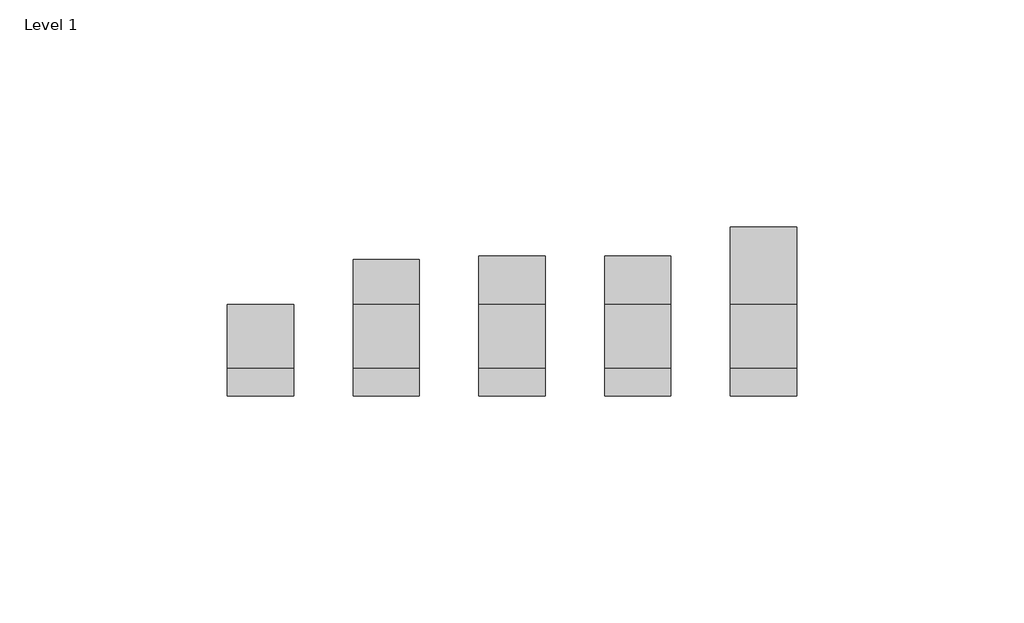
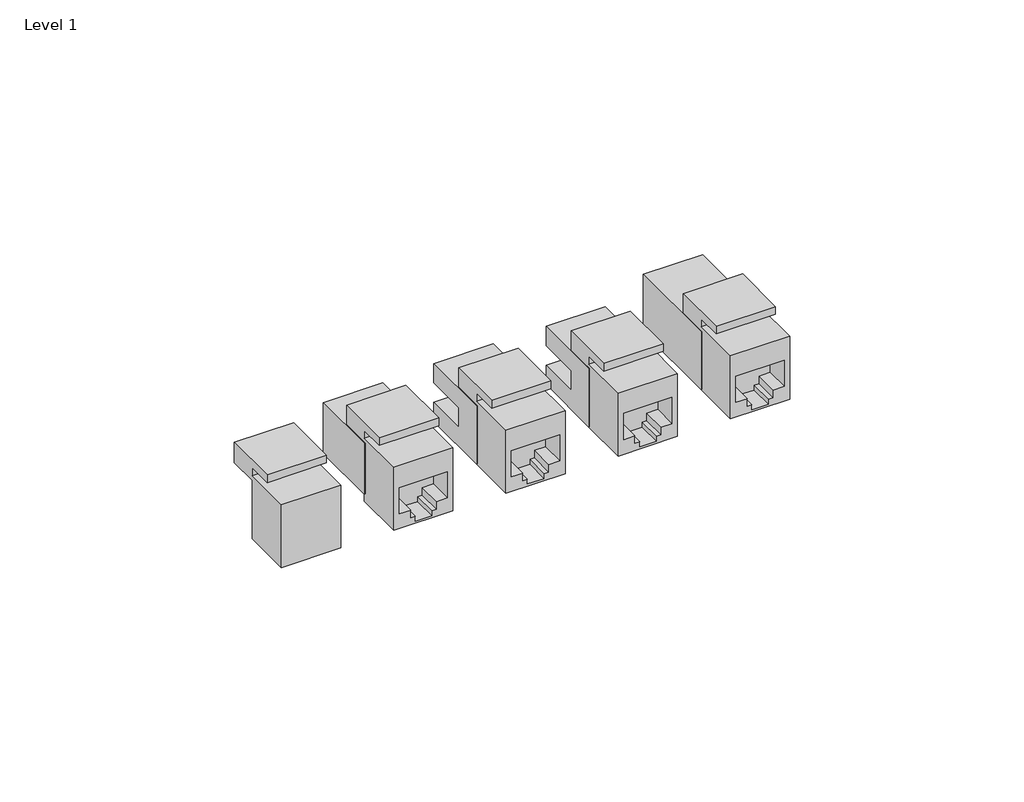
# One storey: 5 electric appliances.
"""IFC4 building model written with IfcOpenShell, lengths in millimetres."""

from ifc_helpers import new_model, si_unit, origin, place, context, project, spatial, transform, mapped, element, save
from components import blank_9f760caa, cat_5e_e14e3988, cat_5e_8b6398ec, cat_6a_component_rated_67d5ba4e

model = new_model("IFC4")

# Units and contexts
model_context = context("Model", 3, world=origin())
ifc_project = project(units=[si_unit("LENGTHUNIT", "METRE", prefix="MILLI")], contexts=[model_context])

# Site, building, storey
site = spatial("IfcSite", under=ifc_project)
building = spatial("IfcBuilding", under=site)
storey = spatial("IfcBuildingStorey", under=building, Name="Level 1", Elevation=0.0)

# Electric appliances
placement = place(None, origin())
blank_shape = blank_9f760caa(model_context)
element("IfcElectricAppliance", 1, ObjectType="Data_Device-Network-Leviton-QuickPort-Connector-Copper : Blank", at=placement, inside=storey, context=model_context, shape_type="MappedRepresentation", body=[
    mapped(blank_shape, transform((-2237.8002828, 1757.7406258, 233.1085), x_axis=(1.0, 0.0, 0.0), y_axis=(0.0, 0.0, 1.0), z_axis=(0.0, -1.0, 0.0))),
])
cat_5e_shape = cat_5e_e14e3988(model_context)
element("IfcElectricAppliance", 2, ObjectType="Data_Device-Network-Leviton-QuickPort-Connector-Copper : CAT 5e", at=placement, inside=storey, context=model_context, shape_type="MappedRepresentation", body=[
    mapped(cat_5e_shape, transform((-2210.1511721, 1757.7406258, 233.1085), x_axis=(1.0, 0.0, 0.0), y_axis=(0.0, 0.0, 1.0), z_axis=(0.0, -1.0, 0.0))),
])
cat_5e_2_shape = cat_5e_8b6398ec(model_context)
element("IfcElectricAppliance", 3, ObjectType="Data_Device-Network-Leviton-QuickPort-Connector-Copper : CAT 5e+", at=placement, inside=storey, context=model_context, shape_type="MappedRepresentation", body=[
    mapped(cat_5e_2_shape, transform((-2182.5020615, 1757.7406258, 233.1085), x_axis=(1.0, 0.0, 0.0), y_axis=(0.0, 0.0, 1.0), z_axis=(0.0, -1.0, 0.0))),
])
element("IfcElectricAppliance", 4, ObjectType="Data_Device-Network-Leviton-QuickPort-Connector-Copper : CAT 6", at=placement, inside=storey, context=model_context, shape_type="MappedRepresentation", body=[
    mapped(cat_5e_2_shape, transform((-2154.8529508, 1757.7406258, 233.1085), x_axis=(1.0, 0.0, 0.0), y_axis=(0.0, 0.0, 1.0), z_axis=(0.0, -1.0, 0.0))),
])
cat_6a_component_rated_shape = cat_6a_component_rated_67d5ba4e(model_context)
element("IfcElectricAppliance", 5, ObjectType="Data_Device-Network-Leviton-QuickPort-Connector-Copper : CAT 6A Component-Rated", at=placement, inside=storey, context=model_context, shape_type="MappedRepresentation", body=[
    mapped(cat_6a_component_rated_shape, transform((-2127.2038402, 1757.7406258, 233.1085), x_axis=(1.0, 0.0, 0.0), y_axis=(0.0, 0.0, 1.0), z_axis=(0.0, -1.0, 0.0))),
])

save(model, "model.ifc")
